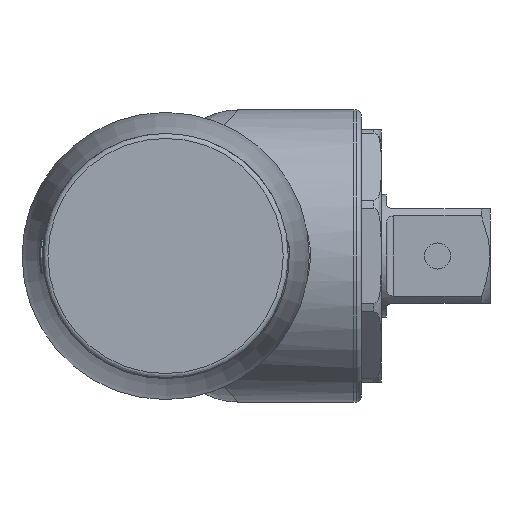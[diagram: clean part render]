
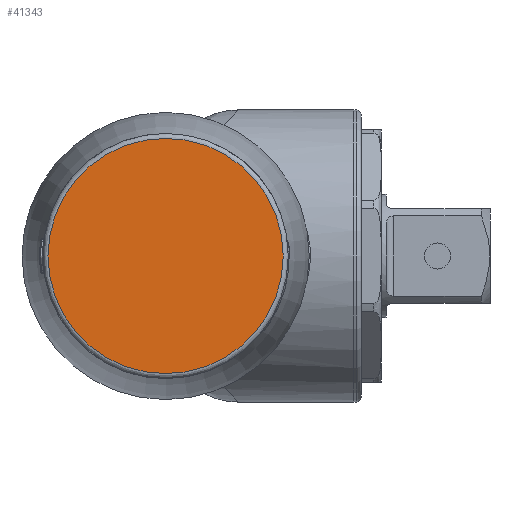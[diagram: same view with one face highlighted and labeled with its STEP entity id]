
A CAD part, left-side view. The second image highlights one B-rep face of the part: STEP entity #41343.
In plain terms, the highlighted planar face has unit normal (-1, 0, 0).
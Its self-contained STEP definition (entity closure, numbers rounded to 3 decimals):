
#788 = CARTESIAN_POINT ( 'NONE',  ( -551.955, 0., 23.75 ) ) ;
#2446 = AXIS2_PLACEMENT_3D ( 'NONE', #27742, #37268, #29690 ) ;
#16315 = CIRCLE ( 'NONE', #28049, 23.75 ) ;
#24120 = PLANE ( 'NONE',  #2446 ) ;
#25586 = EDGE_CURVE ( 'NONE', #33562, #33562, #16315, .T. ) ;
#27591 = ORIENTED_EDGE ( 'NONE', *, *, #25586, .T. ) ;
#27742 = CARTESIAN_POINT ( 'NONE',  ( -551.955, 0., 0. ) ) ;
#28049 = AXIS2_PLACEMENT_3D ( 'NONE', #51879, #52486, #52540 ) ;
#29690 = DIRECTION ( 'NONE',  ( 0., 0., 1. ) ) ;
#33562 = VERTEX_POINT ( 'NONE', #788 ) ;
#37268 = DIRECTION ( 'NONE',  ( -1., 0., 0. ) ) ;
#41343 = ADVANCED_FACE ( 'NONE', ( #46470 ), #24120, .T. ) ;
#42432 = EDGE_LOOP ( 'NONE', ( #27591 ) ) ;
#46470 = FACE_OUTER_BOUND ( 'NONE', #42432, .T. ) ;
#51879 = CARTESIAN_POINT ( 'NONE',  ( -551.955, 0., 0. ) ) ;
#52486 = DIRECTION ( 'NONE',  ( -1., 0., 0. ) ) ;
#52540 = DIRECTION ( 'NONE',  ( 0., 0., 1. ) ) ;
